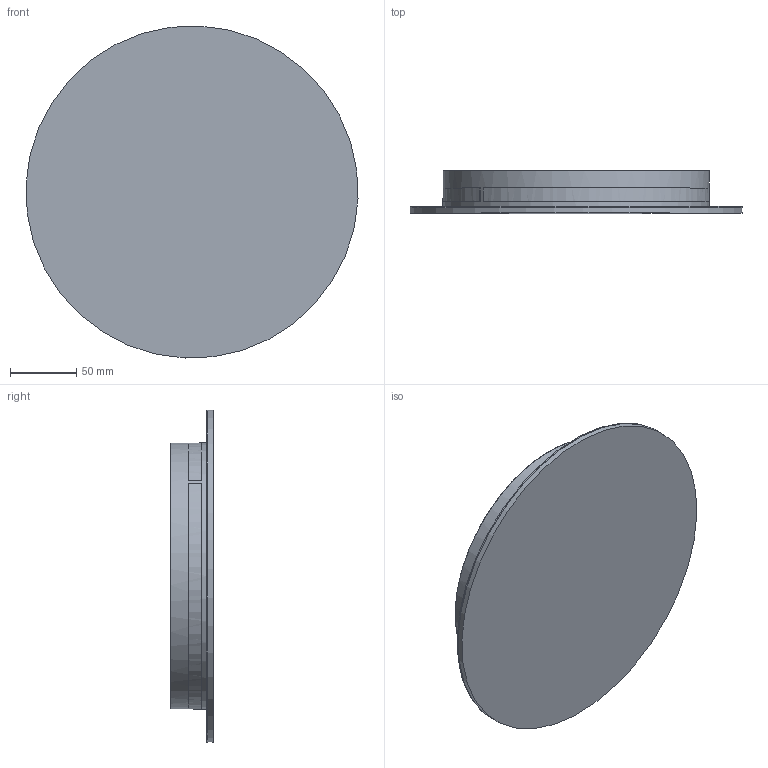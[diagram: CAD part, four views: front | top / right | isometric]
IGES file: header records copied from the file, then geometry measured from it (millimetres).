
Start section: SolidWorks IGES file using analytic representation for surfaces
Global section: file name: X:\PRODUKT\Modele 3D_WWW\_KOLEKCJE WWW\RING-LED\RING-LED-M-MIRROR-10277\RING-LED-M-MIRROR-10277.IGS; native system: SolidWorks 2021; preprocessor: SolidWorks 2021; author: gabriela.tworek; date: 221026.080403; units: millimetre
Bounding box: 249.79 x 32 x 249.79 mm (x, y, z)
Surface area: 292965.3 mm2 (no closed solid volume)
Topology: 0 solids, 0 shells, 15 faces, 39 edges, 36 vertices
Faces by surface type: bspline 10, revolution 5
